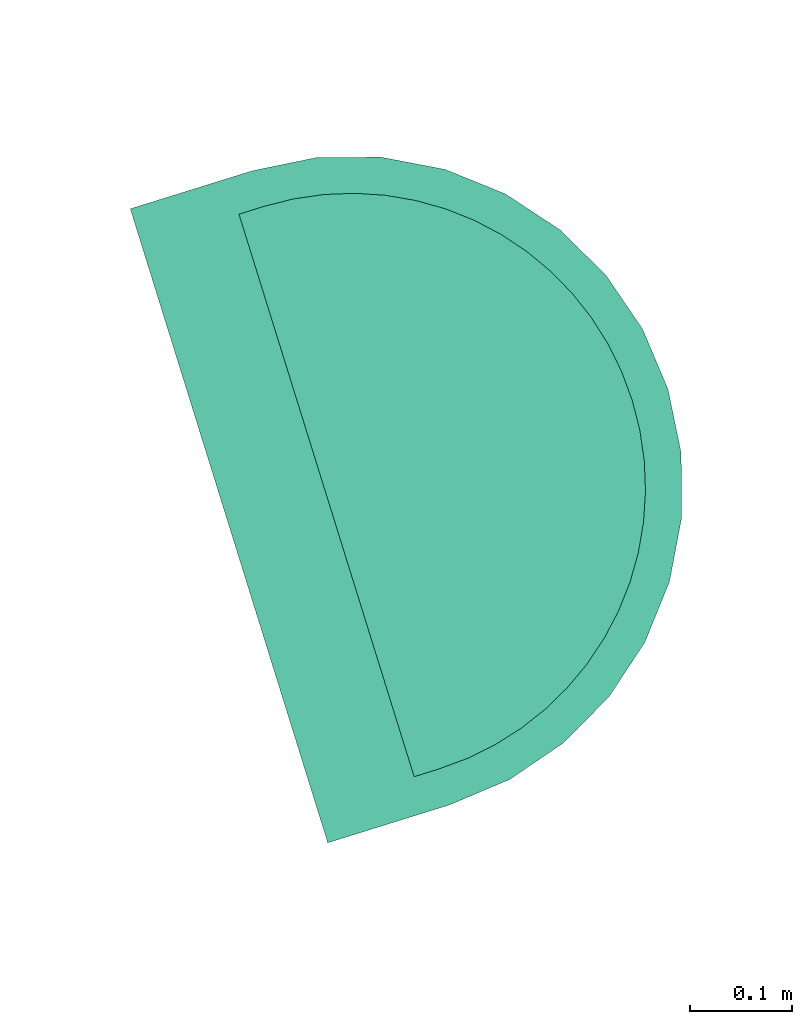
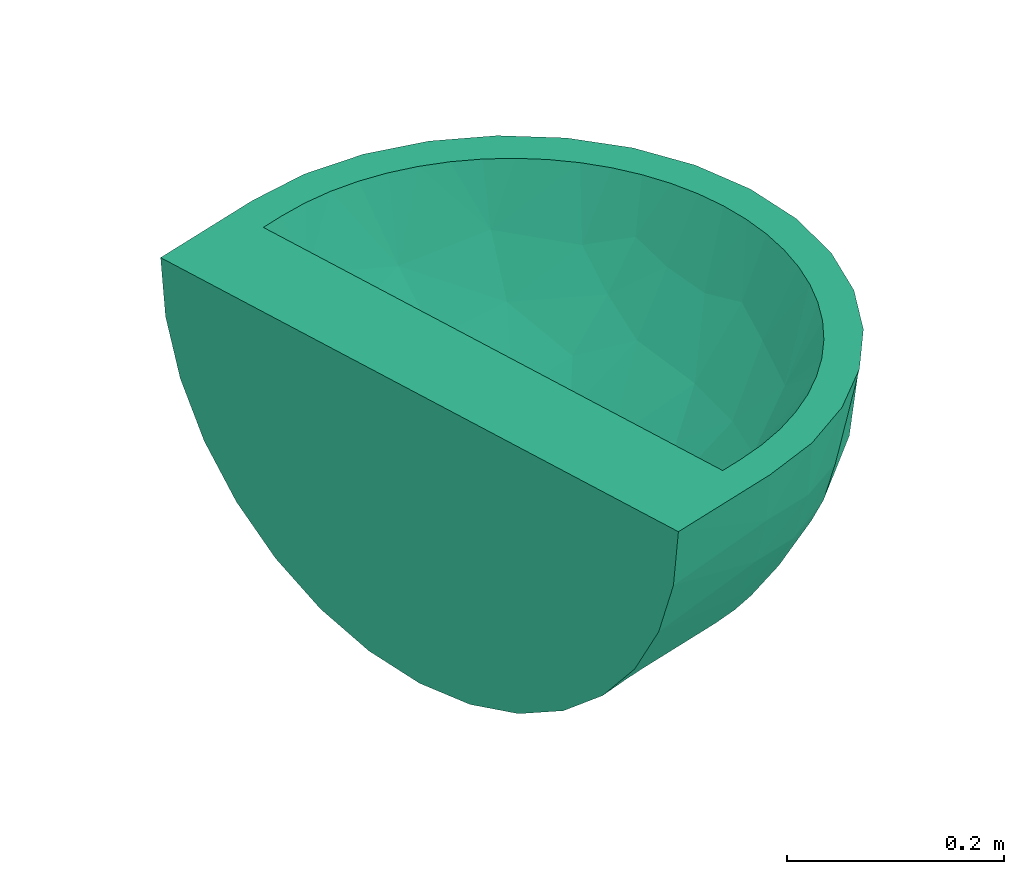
# Not in any storey, part 7 of 17: 1 sanitary terminal.
"""IFC4 model written with IfcOpenShell, lengths in metres."""

from ifc_helpers import new_model, entity, si_unit, converted_unit, direction, frame, origin, place, context, subcontext, project, polygons, source, transform, mapped, material, type_object, type_shapes, element, save


model = new_model("IFC4")

# Units and contexts
model_context = context("Model", 3, precision=1e-05, world=origin(), true_north=direction((6.12323399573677e-17, 1.0)))
body_context = subcontext(model_context, "Body", "Model", "MODEL_VIEW")
ifc_project = project(units=[si_unit("LENGTHUNIT", "METRE"), si_unit("AREAUNIT", "SQUARE_METRE"), converted_unit("PLANEANGLEUNIT", "DEGREE", entity("IfcPlaneAngleMeasure", 0.0174532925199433), si_unit("PLANEANGLEUNIT", "RADIAN"), dimensions=[0, 0, 0, 0, 0, 0, 0]), si_unit("VOLUMEUNIT", "CUBIC_METRE")], contexts=[model_context])

# Sanitary terminal
ifc_material = material(Name="<Unnamed>")
sanitary_terminal_type = type_object("IfcSanitaryTerminalType", Name="NLRS_74_PF_WB_wastafel_gen:wastafel", PredefinedType="SINK", material=ifc_material)
shared_shape = source(origin(), body_context, "Body", "Tessellation", [
    polygons([(-0.303081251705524, 0.175000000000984, -3.7), (-0.303081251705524, 0.0499999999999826, -3.7), (0.021918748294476, 0.0499999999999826, -3.7), (0.021918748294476, 0.150000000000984, -3.7), (-0.266395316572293, 0.150000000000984, -3.7), (-0.266395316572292, 0.175000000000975, -3.7), (-0.264816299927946, 0.205133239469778, -3.7), (-0.260095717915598, 0.234940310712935, -3.7), (-0.252285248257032, 0.264090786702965, -3.7), (-0.241470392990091, 0.292265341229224, -3.7), (-0.227769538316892, 0.319155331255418, -3.7), (-0.21133265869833, 0.344466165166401, -3.7), (-0.192339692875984, 0.367920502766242, -3.7), (-0.170998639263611, 0.389261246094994, -3.7), (-0.147543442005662, 0.408254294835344, -3.7), (-0.122231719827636, 0.424691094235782, -3.7), (-0.0953421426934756, 0.438391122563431, -3.7), (-0.0671705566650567, 0.449204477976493, -3.7), (-0.038024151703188, 0.457013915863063, -3.7), (-0.00821701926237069, 0.461734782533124, -3.7), (0.021918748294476, 0.463314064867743, -3.7), (0.021918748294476, 0.500000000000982, -3.7), (-0.0414856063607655, 0.493755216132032, -3.7), (-0.102453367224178, 0.475260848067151, -3.7), (-0.158641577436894, 0.44522762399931, -3.7), (-0.207890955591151, 0.404809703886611, -3.7), (-0.248308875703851, 0.355560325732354, -3.7), (-0.278342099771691, 0.299372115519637, -3.7), (-0.296836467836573, 0.238404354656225, -3.7), (0.346918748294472, 0.175000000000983, -3.7), (0.340673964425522, 0.238404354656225, -3.7), (0.32217959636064, 0.299372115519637, -3.7), (0.292146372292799, 0.355560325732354, -3.7), (0.2517284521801, 0.404809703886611, -3.7), (0.202479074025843, 0.44522762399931, -3.7), (0.146290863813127, 0.475260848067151, -3.7), (0.0853231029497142, 0.493755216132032, -3.7), (0.0520545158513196, 0.461734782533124, -3.7), (0.0818616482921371, 0.457013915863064, -3.7), (0.111008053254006, 0.449204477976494, -3.7), (0.139179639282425, 0.438391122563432, -3.7), (0.166069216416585, 0.424691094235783, -3.7), (0.191380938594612, 0.408254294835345, -3.7), (0.214836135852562, 0.389261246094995, -3.7), (0.236177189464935, 0.367920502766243, -3.7), (0.255170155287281, 0.344466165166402, -3.7), (0.271607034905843, 0.319155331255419, -3.7), (0.285307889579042, 0.292265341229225, -3.7), (0.296122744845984, 0.264090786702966, -3.7), (0.303933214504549, 0.234940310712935, -3.7), (0.308653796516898, 0.205133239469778, -3.7), (0.310232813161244, 0.175000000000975, -3.7), (0.310232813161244, 0.150000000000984, -3.7), (0.346918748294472, 0.0499999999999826, -3.7), (-0.298628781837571, 0.175000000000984, -3.75361232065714), (-0.285393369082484, 0.175000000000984, -3.8057556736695), (-0.263737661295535, 0.175000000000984, -3.85500134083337), (-0.234255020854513, 0.175000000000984, -3.9), (-0.234255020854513, 0.0749999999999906, -3.9), (-0.193925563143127, 0.0749999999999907, -3.94297372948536), (-0.146498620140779, 0.0749999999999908, -3.97795789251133), (-0.0935337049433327, 0.0749999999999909, -4.00380212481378), (-0.0367724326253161, 0.074999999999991, -4.01965660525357), (0.0219187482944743, 0.074999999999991, -4.025), (0.0806099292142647, 0.074999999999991, -4.01965660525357), (0.137371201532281, 0.0749999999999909, -4.00380212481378), (0.190336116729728, 0.0749999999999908, -3.97795789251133), (0.237763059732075, 0.0749999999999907, -3.94297372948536), (0.278092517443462, 0.0749999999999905, -3.9), (0.278092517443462, 0.175000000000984, -3.9), (0.307575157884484, 0.175000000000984, -3.85500134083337), (0.329230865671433, 0.175000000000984, -3.8057556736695), (0.34246627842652, 0.175000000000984, -3.75361232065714), (0.340673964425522, 0.0499999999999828, -3.76340435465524), (0.32217959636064, 0.049999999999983, -3.82437211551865), (0.292146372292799, 0.0499999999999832, -3.88056032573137), (0.2517284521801, 0.0499999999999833, -3.92980970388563), (0.202479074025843, 0.0499999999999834, -3.97022762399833), (0.146290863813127, 0.0499999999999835, -4.00026084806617), (0.085323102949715, 0.0499999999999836, -4.01875521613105), (0.0219187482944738, 0.0499999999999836, -4.025), (-0.0414856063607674, 0.0499999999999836, -4.01875521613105), (-0.102453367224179, 0.0499999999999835, -4.00026084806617), (-0.158641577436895, 0.0499999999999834, -3.97022762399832), (-0.207890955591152, 0.0499999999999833, -3.92980970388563), (-0.248308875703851, 0.0499999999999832, -3.88056032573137), (-0.278342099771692, 0.049999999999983, -3.82437211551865), (-0.296836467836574, 0.0499999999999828, -3.76340435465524), (-0.21409029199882, 0.0749999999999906, -3.92148686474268), (-0.170212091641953, 0.0749999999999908, -3.96046581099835), (0.214049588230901, 0.0749999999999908, -3.96046581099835), (0.257927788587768, 0.0749999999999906, -3.92148686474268), (0.27193741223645, 0.0499999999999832, -3.9051850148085), (0.227103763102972, 0.0499999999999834, -3.95001866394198), (0.174384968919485, 0.0499999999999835, -3.98524423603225), (0.115806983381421, 0.0499999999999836, -4.00950803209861), (-0.0719694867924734, 0.0499999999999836, -4.00950803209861), (-0.130547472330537, 0.0499999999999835, -3.98524423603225), (-0.183266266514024, 0.0499999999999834, -3.95001866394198), (-0.228099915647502, 0.0499999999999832, -3.9051850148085), (0.163853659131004, 0.0749999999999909, -3.99088000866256), (0.108990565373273, 0.0749999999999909, -4.01172936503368), (-0.0651530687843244, 0.0749999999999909, -4.01172936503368), (-0.120016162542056, 0.0749999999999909, -3.99088000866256), (0.27659082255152, 0.202697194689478, -3.9), (0.272103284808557, 0.230069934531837, -3.9), (0.264682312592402, 0.256797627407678, -3.9), (0.254414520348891, 0.282567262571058, -3.9), (0.24141970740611, 0.307076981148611, -3.9), (0.225849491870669, 0.330039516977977, -3.9), (0.207885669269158, 0.351185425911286, -3.9), (0.18773840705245, 0.370266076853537, -3.9), (0.165644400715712, 0.38705644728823, -3.9), (0.141864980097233, 0.401357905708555, -3.9), (0.116683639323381, 0.413001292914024, -3.9), (0.0904016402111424, 0.421850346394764, -3.9), (0.0633306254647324, 0.427804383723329, -3.9), (0.0357845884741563, 0.430798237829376, -3.9), (0.00807674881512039, 0.43079952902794, -3.9), (-0.0194777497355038, 0.427806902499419, -3.9), (-0.0465597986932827, 0.421851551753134, -3.9), (-0.0728496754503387, 0.412999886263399, -3.9), (-0.0980340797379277, 0.401354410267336, -3.9), (-0.121813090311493, 0.387052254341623, -3.9), (-0.1439051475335, 0.370262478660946, -3.9), (-0.164050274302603, 0.351183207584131, -3.9), (-0.182012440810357, 0.33003893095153, -3.9), (-0.197581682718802, 0.307077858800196, -3.9), (-0.210576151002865, 0.282569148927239, -3.9), (-0.220844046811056, 0.256799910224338, -3.9), (-0.228265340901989, 0.230071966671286, -3.9), (-0.232753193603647, 0.202698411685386, -3.9), (-0.257045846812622, 0.297316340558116, -3.81332461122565), (0.300884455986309, 0.297313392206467, -3.81332505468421), (-0.0097834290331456, 0.496877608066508, -3.7), (-0.205655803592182, 0.378737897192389, -3.81102113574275), (0.249493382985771, 0.378737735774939, -3.81102126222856), (0.0536209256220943, 0.496877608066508, -3.7), (0.0219337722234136, 0.481913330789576, -3.80690747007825), (-0.0719694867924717, 0.484508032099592, -3.7), (0.11580698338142, 0.484508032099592, -3.7), (-0.0425022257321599, 0.471258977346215, -3.81707073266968), (-0.165040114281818, 0.416191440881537, -3.81179477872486), (0.20887408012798, 0.416198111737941, -3.81178629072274), (0.0863501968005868, 0.471256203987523, -3.8170719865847), (-0.23446246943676, 0.305265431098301, -3.85140868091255), (0.278301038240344, 0.305263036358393, -3.85140892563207), (-0.120243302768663, 0.443687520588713, -3.81498681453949), (0.164074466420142, 0.443691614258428, -3.81498507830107), (-0.233336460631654, 0.358005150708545, -3.78353976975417), (0.277175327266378, 0.358003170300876, -3.78353992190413), (-0.290060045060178, 0.240925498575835, -3.76283359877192), (0.333897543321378, 0.240925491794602, -3.76283359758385), (-0.275008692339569, 0.237028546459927, -3.81666856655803), (-0.254394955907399, 0.239447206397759, -3.85850014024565), (-0.272362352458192, 0.296908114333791, -3.76451391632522), (0.31884634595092, 0.237026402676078, -3.81666930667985), (0.298232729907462, 0.239444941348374, -3.85850057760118), (0.316201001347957, 0.296905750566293, -3.76451312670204), (-0.0755829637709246, 0.474402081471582, -3.78047862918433), (-0.0690330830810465, 0.449635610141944, -3.84808121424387), (0.119420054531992, 0.474406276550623, -3.7804635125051), (0.112885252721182, 0.449636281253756, -3.84807095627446), (-0.228099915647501, 0.380185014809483, -3.7), (0.27193741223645, 0.380185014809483, -3.7), (-0.183266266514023, 0.425018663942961, -3.7), (0.227103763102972, 0.425018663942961, -3.7), (-0.130547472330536, 0.460244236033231, -3.7), (0.174384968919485, 0.460244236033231, -3.7), (-0.234514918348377, 0.175000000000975, -3.74966665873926), (-0.194178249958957, 0.175000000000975, -3.79274902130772), (-0.146715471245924, 0.175000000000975, -3.82782638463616), (-0.0936917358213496, 0.175000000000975, -3.85374202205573), (-0.0368555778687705, 0.175000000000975, -3.86964132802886), (0.0219187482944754, 0.175000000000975, -3.875), (0.0806930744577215, 0.175000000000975, -3.86964132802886), (0.137529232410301, 0.175000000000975, -3.85374202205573), (0.190552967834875, 0.175000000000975, -3.82782638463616), (0.238015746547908, 0.175000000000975, -3.79274902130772), (0.278352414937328, 0.175000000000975, -3.74966665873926), (-0.119627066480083, 0.322173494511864, -3.80284332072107), (0.163464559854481, 0.32217349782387, -3.8028433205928), (-0.200517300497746, 0.262511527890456, -3.77020203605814), (0.244354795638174, 0.262511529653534, -3.77020203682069), (-0.162633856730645, 0.347041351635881, -3.75485875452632), (0.206471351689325, 0.347041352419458, -3.75485875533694), (0.00220012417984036, 0.367185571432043, -3.81134437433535), (-0.0912046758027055, 0.393814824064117, -3.76200981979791), (0.135042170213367, 0.393814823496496, -3.76200982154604), (0.0498196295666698, 0.280825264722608, -3.85601887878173), (-0.0620730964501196, 0.266760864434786, -3.85025041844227), (0.160889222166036, 0.248929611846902, -3.83433540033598), (0.0405814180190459, 0.417340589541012, -3.76574926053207), (0.0863370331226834, 0.354389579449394, -3.81323879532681), (-0.00909478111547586, 0.420066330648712, -3.76120050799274), (-0.0478694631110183, 0.381606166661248, -3.79097405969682), (-0.0422183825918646, 0.327597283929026, -3.82968821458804), (-0.0074080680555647, 0.286981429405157, -3.8536858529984), (-0.00719351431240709, 0.22811728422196, -3.869305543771), (-0.0504034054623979, 0.422275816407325, -3.7481140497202), (0.115439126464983, 0.298042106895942, -3.83590134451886), (0.101584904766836, 0.237319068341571, -3.85886022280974), (-0.144773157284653, 0.251326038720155, -3.81835264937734), (0.0860600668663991, 0.418745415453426, -3.75518056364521), (-0.234512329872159, 0.150000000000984, -3.74966998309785), (-0.19417475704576, 0.150000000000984, -3.79275213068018), (-0.146711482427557, 0.150000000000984, -3.8278288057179), (-0.0936885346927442, 0.150000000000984, -3.85374324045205), (-0.0368543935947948, 0.150000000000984, -3.869641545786), (0.021917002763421, 0.150000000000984, -3.87499999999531), (0.080687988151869, 0.150000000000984, -3.86964226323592), (0.137520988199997, 0.150000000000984, -3.85374515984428), (0.19054233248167, 0.150000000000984, -3.82783283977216), (0.238003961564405, 0.150000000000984, -3.79275951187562), (0.278341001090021, 0.150000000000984, -3.74968131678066)], [[[22, 135, 23, 140, 24, 168, 25, 166, 26, 164, 27, 28, 29, 1, 2, 3, 54, 30, 31, 32, 33, 165, 34, 167, 35, 169, 36, 141, 37, 138], [21, 38, 39, 40, 41, 42, 43, 44, 45, 46, 47, 48, 49, 50, 51, 52, 53, 4, 5, 6, 7, 8, 9, 10, 11, 12, 13, 14, 15, 16, 17, 18, 19, 20]], [[55, 2, 1]], [[88, 55, 56]], [[56, 57, 87]], [[89, 100, 59]], [[97, 62, 103]], [[104, 83, 98]], [[82, 103, 63]], [[97, 103, 82]], [[63, 81, 82]], [[57, 58, 59]], [[68, 77, 94]], [[86, 59, 100]], [[86, 87, 57]], [[88, 2, 55]], [[56, 87, 88]], [[59, 86, 57]], [[98, 84, 61]], [[83, 62, 97]], [[60, 99, 85]], [[90, 61, 84]], [[69, 76, 93]], [[90, 99, 60]], [[100, 89, 85]], [[60, 85, 89]], [[78, 67, 91]], [[63, 64, 81]], [[66, 96, 102]], [[83, 104, 62]], [[68, 94, 91]], [[67, 78, 95]], [[79, 101, 95]], [[67, 95, 101]], [[72, 73, 74]], [[69, 70, 71]], [[75, 71, 72]], [[77, 68, 92]], [[81, 64, 65]], [[54, 73, 30]], [[99, 90, 84]], [[102, 80, 65]], [[79, 66, 101]], [[91, 94, 78]], [[80, 102, 96]], [[65, 80, 81]], [[66, 79, 96]], [[93, 77, 92]], [[69, 71, 76]], [[75, 76, 71]], [[72, 74, 75]], [[73, 54, 74]], [[69, 93, 92]], [[98, 61, 104]], [[74, 54, 3, 2, 88, 87, 86, 100, 85, 99, 84, 98, 83, 97, 82, 81, 80, 96, 79, 95, 78, 94, 77, 93, 76, 75]], [[143, 136, 25]], [[32, 159, 33]], [[134, 157, 158]], [[143, 125, 126]], [[146, 150, 136]], [[126, 127, 143]], [[109, 147, 108]], [[136, 143, 127]], [[125, 143, 148]], [[153, 157, 159]], [[121, 122, 161]], [[142, 135, 139]], [[153, 159, 32]], [[119, 120, 142]], [[24, 148, 143]], [[142, 160, 23]], [[147, 151, 134]], [[160, 161, 148]], [[124, 148, 123]], [[140, 148, 24]], [[160, 140, 23]], [[158, 106, 107]], [[128, 146, 136]], [[29, 28, 152]], [[148, 140, 160]], [[55, 152, 56]], [[156, 133, 154]], [[29, 55, 1]], [[152, 55, 29]], [[151, 34, 165]], [[137, 151, 147]], [[156, 28, 27]], [[121, 161, 142]], [[119, 142, 139]], [[131, 155, 130]], [[129, 130, 146]], [[149, 112, 113]], [[150, 26, 166]], [[58, 57, 155]], [[139, 118, 119]], [[56, 154, 57]], [[155, 57, 154]], [[161, 123, 148]], [[138, 145, 139]], [[155, 146, 130]], [[127, 128, 136]], [[133, 164, 150]], [[155, 132, 58]], [[161, 160, 142]], [[145, 138, 37]], [[71, 70, 158]], [[128, 129, 146]], [[139, 135, 22]], [[138, 139, 22]], [[139, 145, 118]], [[135, 142, 23]], [[145, 116, 117]], [[114, 149, 113]], [[149, 141, 36]], [[144, 35, 137]], [[154, 152, 156]], [[146, 155, 133]], [[110, 144, 137]], [[148, 124, 125]], [[163, 145, 162]], [[151, 165, 134]], [[144, 112, 149]], [[137, 109, 110]], [[118, 145, 117]], [[154, 133, 155]], [[162, 145, 37]], [[28, 156, 152]], [[150, 146, 133]], [[24, 143, 25, 168]], [[111, 112, 144]], [[110, 111, 144]], [[116, 145, 163]], [[137, 167, 151]], [[109, 137, 147]], [[120, 121, 142]], [[71, 158, 157]], [[107, 147, 158]], [[162, 37, 141]], [[147, 134, 158]], [[107, 108, 147]], [[157, 72, 71]], [[70, 105, 158]], [[152, 154, 56]], [[153, 31, 73]], [[114, 115, 163]], [[137, 35, 167]], [[156, 164, 133]], [[30, 73, 31]], [[153, 73, 72]], [[150, 166, 136]], [[157, 134, 159]], [[105, 106, 158]], [[31, 153, 32]], [[144, 36, 169, 35]], [[155, 131, 132]], [[164, 26, 150]], [[159, 134, 165]], [[157, 153, 72]], [[161, 122, 123]], [[141, 149, 162]], [[149, 114, 163]], [[149, 163, 162]], [[116, 163, 115]], [[164, 156, 27]], [[165, 33, 159]], [[25, 136, 166]], [[34, 151, 167]], [[36, 144, 149]], [[16, 15, 185]], [[190, 187, 198]], [[14, 13, 185]], [[199, 202, 190]], [[197, 198, 187]], [[183, 185, 11]], [[188, 17, 16]], [[191, 197, 181]], [[21, 195, 193]], [[193, 194, 204]], [[191, 203, 173]], [[197, 187, 196]], [[195, 200, 196]], [[20, 195, 21]], [[188, 16, 185]], [[195, 196, 187]], [[188, 196, 200]], [[198, 197, 191]], [[8, 183, 9]], [[188, 200, 18]], [[8, 7, 170]], [[201, 194, 190]], [[192, 201, 202]], [[170, 7, 6]], [[10, 9, 183]], [[20, 19, 200]], [[203, 183, 171]], [[173, 203, 172]], [[190, 202, 201]], [[171, 183, 170]], [[170, 183, 8]], [[185, 13, 12]], [[10, 183, 11]], [[179, 184, 178]], [[17, 188, 18]], [[12, 11, 185]], [[198, 199, 190]], [[14, 185, 15]], [[196, 188, 181]], [[174, 199, 191]], [[195, 187, 193]], [[182, 189, 194]], [[186, 42, 189]], [[182, 192, 184]], [[202, 176, 177]], [[189, 41, 40]], [[39, 38, 204]], [[43, 42, 186]], [[45, 44, 186]], [[197, 196, 181]], [[186, 184, 47]], [[194, 193, 187]], [[204, 189, 40]], [[186, 47, 46]], [[194, 201, 182]], [[44, 43, 186]], [[174, 175, 199]], [[48, 47, 184]], [[42, 41, 189]], [[174, 191, 173]], [[178, 184, 192]], [[192, 177, 178]], [[182, 184, 186]], [[181, 183, 203]], [[199, 198, 191]], [[181, 188, 185]], [[179, 180, 184]], [[200, 195, 20]], [[18, 200, 19]], [[180, 50, 184]], [[52, 51, 180]], [[50, 180, 51]], [[38, 21, 193]], [[46, 45, 186]], [[202, 199, 175]], [[184, 50, 49]], [[48, 184, 49]], [[181, 185, 183]], [[192, 182, 201]], [[40, 39, 204]], [[190, 194, 187]], [[182, 186, 189]], [[192, 202, 177]], [[175, 176, 202]], [[181, 203, 191]], [[172, 203, 171]], [[189, 204, 194]], [[193, 204, 38]], [[6, 5, 170]], [[170, 205, 171]], [[173, 172, 207]], [[206, 172, 171]], [[174, 173, 208]], [[170, 5, 205]], [[171, 205, 206]], [[174, 209, 210]], [[173, 207, 208]], [[174, 208, 209]], [[207, 172, 206]], [[210, 175, 174]], [[176, 175, 211]], [[176, 212, 177]], [[179, 178, 214]], [[213, 178, 177]], [[180, 179, 215]], [[212, 176, 211]], [[213, 177, 212]], [[214, 215, 179]], [[178, 213, 214]], [[53, 180, 215]], [[180, 53, 52]], [[210, 211, 175]], [[215, 214, 213, 212, 211, 210, 209, 208, 207, 206, 205, 5, 4, 53]], [[67, 101, 66, 102, 65, 64, 63, 103, 62, 104, 61, 90, 60, 89, 59, 69, 92, 68, 91]], [[69, 59, 58, 132, 131, 130, 129, 128, 127, 126, 125, 124, 123, 122, 121, 120, 119, 118, 117, 116, 115, 114, 113, 112, 111, 110, 109, 108, 107, 106, 105, 70]]], closed=True),
])
type_shapes(sanitary_terminal_type, [shared_shape])
placement_1 = place(None, frame((13.1347999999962, 11.9886000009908, 0.0), z_axis=(0.0, 0.0, 1.0), x_axis=(0.954770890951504, 0.297342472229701, 0.0)))
placement_2 = place(placement_1, origin())
placement_3 = place(placement_2, frame((0.0, 0.0, 3.9)))
placement_4 = place(placement_3, origin())
sanitary_terminal_placement = place(placement_4, frame((62.2250000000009, 16.1469187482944, 4.525), z_axis=(0.0, 0.0, 1.0), x_axis=(0.0, -1.0, 0.0)))
element("IfcSanitaryTerminal", 1, at=sanitary_terminal_placement, type_object=sanitary_terminal_type, material=ifc_material, Name="NLRS_74_PF_WB_wastafel_gen:wastafel", ObjectType="NLRS_74_PF_WB_wastafel_gen:wastafel", PredefinedType="SINK", context=body_context, shape_type="MappedRepresentation", body=[
    mapped(shared_shape, transform((0.0, 0.0, 0.0), scale=1.0)),
])

save(model, "model.ifc")
